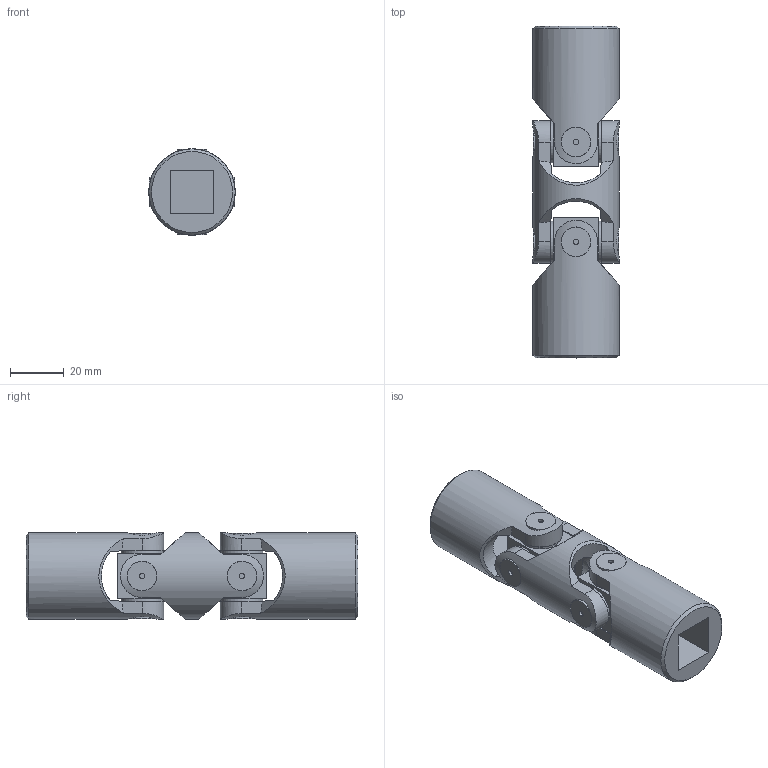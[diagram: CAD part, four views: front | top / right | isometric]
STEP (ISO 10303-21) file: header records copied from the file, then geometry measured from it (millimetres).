
FILE_DESCRIPTION(/* description */ (''),/* implementation_level */ '2;1');
FILE_NAME(/* name */ '\\SRV2016\Societa\Stefano\Disegni 3D\00Catalogo 3D\02Doppi GD-GBD\SGBD162Q.stp',/* time_stamp */ '2021-11-22T17:28:06+01:00',/* author */ ('acquisti'),/* organization */ (''),/* preprocessor_version */ 'ST-DEVELOPER v15.6',/* originating_system */ 'Autodesk Inventor 2015',/* authorisation */ '');
FILE_SCHEMA (('AUTOMOTIVE_DESIGN { 1 0 10303 214 3 1 1 }'));
Length unit declared in the file: millimetre
Products named in the file (4): 1G MOD; 1G SFE; 3GB MOQ; Ø32_3GBD-00_SGBD2000
Assembly tree (5 placements, depth 2):
  Ø32_3GBD-00_SGBD2000
    1G MOD
    1G SFE  x2
    3GB MOQ  x2
Bounding box: 32 x 123 x 32 mm (x, y, z)
Volume: 64573.2 mm3; surface area: 24993.2 mm2
Topology: 5 solids, 5 shells, 179 faces, 425 edges, 276 vertices
Faces by surface type: plane 78, cylinder 69, cone 28, torus 4
Full cylindrical faces by diameter (mm): 2 x8, 15.5 x8, 18 x2, 32 x3
Entity records: 4014 total; most frequent: CARTESIAN_POINT 1377, ORIENTED_EDGE 524, DIRECTION 510, EDGE_CURVE 262, AXIS2_PLACEMENT_3D 223, VERTEX_POINT 180, EDGE_LOOP 158, FACE_OUTER_BOUND 121
